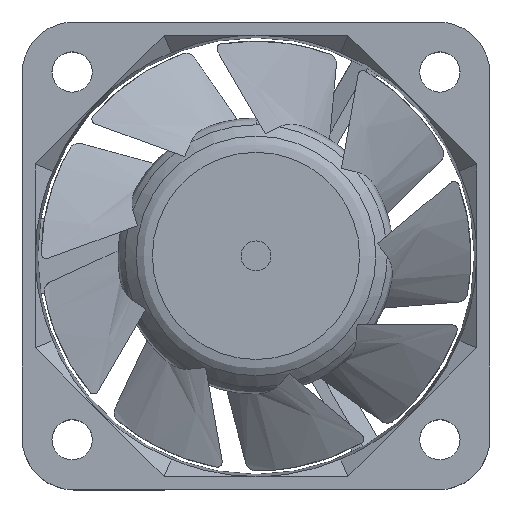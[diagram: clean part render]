
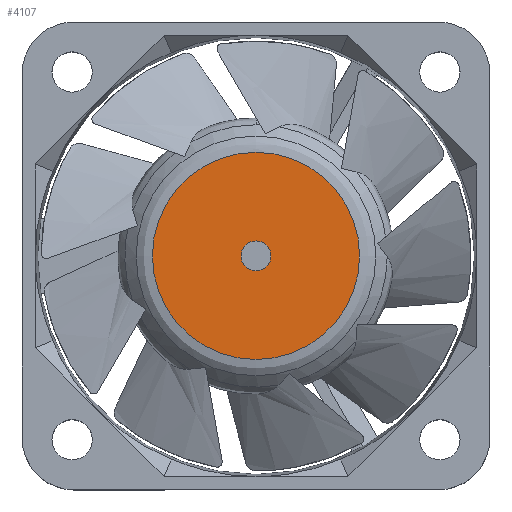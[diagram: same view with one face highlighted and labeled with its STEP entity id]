
A CAD part, top view. The second image highlights one B-rep face of the part: STEP entity #4107.
In plain terms, the highlighted planar face has unit normal (0, 0, 1).
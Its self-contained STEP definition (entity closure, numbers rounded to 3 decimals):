
#4049=CARTESIAN_POINT('',(0.0,9.012,10.2));
#4050=VERTEX_POINT('',#4049);
#4058=CARTESIAN_POINT('',(0.0,-9.012,10.2));
#4059=VERTEX_POINT('',#4058);
#4060=CARTESIAN_POINT('',(0.0,0.0,10.2));
#4061=DIRECTION('',(0.0,0.,1.0));
#4062=DIRECTION('',(0.0,1.0,0.));
#4063=AXIS2_PLACEMENT_3D('',#4060,#4061,#4062);
#4064=CIRCLE('',#4063,9.012);
#4065=EDGE_CURVE('',#4059,#4050,#4064,.T.);
#4067=CARTESIAN_POINT('',(0.0,0.0,10.2));
#4068=DIRECTION('',(0.0,0.,1.0));
#4069=DIRECTION('',(0.0,1.0,0.));
#4070=AXIS2_PLACEMENT_3D('',#4067,#4068,#4069);
#4071=CIRCLE('',#4070,9.012);
#4072=EDGE_CURVE('',#4050,#4059,#4071,.T.);
#4078=CARTESIAN_POINT('',(18.023,18.023,10.2));
#4079=DIRECTION('',(0.0,0.0,1.0));
#4080=DIRECTION('',(-1.0,0.0,0.0));
#4081=AXIS2_PLACEMENT_3D('',#4078,#4079,#4080);
#4082=PLANE('',#4081);
#4083=ORIENTED_EDGE('',*,*,#4072,.T.);
#4084=ORIENTED_EDGE('',*,*,#4065,.T.);
#4085=EDGE_LOOP('',(#4083,#4084));
#4086=FACE_OUTER_BOUND('',#4085,.T.);
#4087=CARTESIAN_POINT('',(0.0,-1.3,10.2));
#4088=VERTEX_POINT('',#4087);
#4089=CARTESIAN_POINT('',(0.0,1.3,10.2));
#4090=VERTEX_POINT('',#4089);
#4091=CARTESIAN_POINT('',(0.0,0.0,10.2));
#4092=DIRECTION('',(0.0,0.,1.0));
#4093=DIRECTION('',(0.0,1.0,0.));
#4094=AXIS2_PLACEMENT_3D('',#4091,#4092,#4093);
#4095=CIRCLE('',#4094,1.3);
#4096=EDGE_CURVE('',#4088,#4090,#4095,.T.);
#4097=ORIENTED_EDGE('',*,*,#4096,.F.);
#4098=CARTESIAN_POINT('',(0.0,0.0,10.2));
#4099=DIRECTION('',(0.0,0.,1.0));
#4100=DIRECTION('',(0.0,1.0,0.));
#4101=AXIS2_PLACEMENT_3D('',#4098,#4099,#4100);
#4102=CIRCLE('',#4101,1.3);
#4103=EDGE_CURVE('',#4090,#4088,#4102,.T.);
#4104=ORIENTED_EDGE('',*,*,#4103,.F.);
#4105=EDGE_LOOP('',(#4097,#4104));
#4106=FACE_BOUND('',#4105,.T.);
#4107=ADVANCED_FACE('',(#4086,#4106),#4082,.T.);
